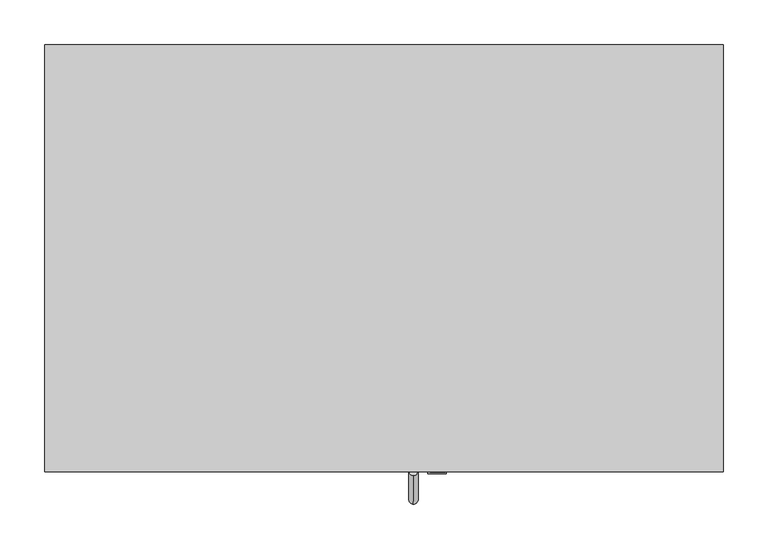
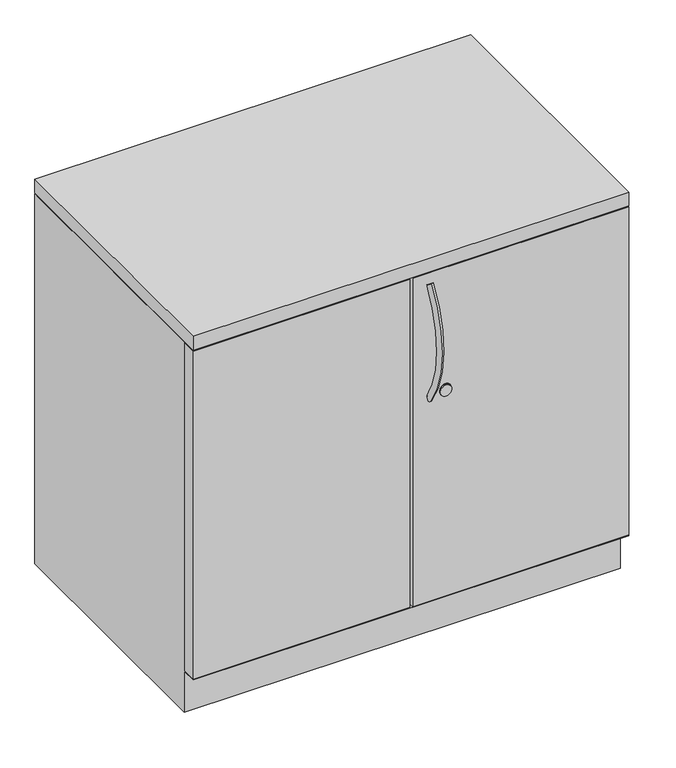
"""IFC4 building model written with IfcOpenShell, lengths in millimetres: furniture geometry, Steelcase - Universal Storage - Cabinet - Storage - 28H - Proud Steel : 18D x 30W."""

from ifc_helpers import new_model, si_unit, point, frame, frame_2d, origin, place, context, project, spatial, polyline, circle_curve, ellipse_curve, trimmed, segment, composite_curve, outline, extrude, faceted_brep, source, transform, mapped, element, save
from ifc_brep_helpers import plane_surface, revolved_surface, advanced_brep


def furniture_28fdecfd(model_context):
    return source(origin(), model_context, "Body", "SolidModel", [
        extrude(outline(polyline([(762.0, 0.0), (762.0, -479.552), (0.0, -479.552), (0.0, 0.0), (762.0, 0.0)])), frame((0.0, 0.0, 685.7999516), z_axis=(0.0, 0.0, 1.0), x_axis=(1.0, 0.0, 0.0)), (0.0, 0.0, 1.0), 25.4),
        extrude(outline(polyline([(0.0, -479.552), (0.0, -454.1528418), (378.46, -454.1528418), (378.46, -479.552), (0.0, -479.552)])), frame((0.0, 0.0, 77.724), z_axis=(0.0, 0.0, 1.0), x_axis=(1.0, 0.0, 0.0)), (0.0, 0.0, 1.0), 606.552),
        extrude(outline(polyline([(762.0, -454.1528418), (762.0, -479.552), (383.54, -479.552), (383.54, -454.1528418), (762.0, -454.1528418)])), frame((0.0, 0.0, 77.724), z_axis=(0.0, 0.0, 1.0), x_axis=(1.0, 0.0, 0.0)), (0.0, 0.0, 1.0), 606.552),
        extrude(outline(composite_curve([segment(trimmed(circle_curve(frame_2d((458.724, 440.5418131)), 10.16), [point((458.724, 450.7018131))], [point((458.724, 430.3818131))], False, "CARTESIAN"), True, "CONTINUOUS"), segment(trimmed(circle_curve(frame_2d((458.724, 440.5418131)), 10.16), [point((458.724, 430.3818131))], [point((458.724, 450.7018131))], False, "CARTESIAN"), True, "CONTINUOUS")], self_intersect=False)), frame((0.0, -481.965031, 0.0), z_axis=(0.0, 1.0, 0.0), x_axis=(0.0, 0.0, 1.0)), (0.0, 0.0, 1.0), 2.413031),
        advanced_brep(
        [(414.0783765, -474.9744318, 660.7416018), (414.0783765, -483.5741633, 666.4120503), (414.0783765, -472.5471581, 453.0151915), (414.0783765, -481.0120418, 447.1453437)],
        [
            (0, 1, circle_curve(frame((414.0783765, -479.2742976, 663.5768261), z_axis=(0.0, 0.5504787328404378, 0.83484918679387), x_axis=(0.0, -0.83484918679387, 0.5504787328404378)), 5.1504701)),
            (1, 0, circle_curve(frame((414.0783765, -479.2742976, 663.5768261), z_axis=(0.0, 0.5504787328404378, 0.83484918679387), x_axis=(0.0, -0.83484918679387, 0.5504787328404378)), 5.1504701)),
            (2, 3, circle_curve(frame((414.0783765, -476.7796, 450.0802676), z_axis=(0.0, 0.5698361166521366, -0.8217583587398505), x_axis=(0.0, -0.8217583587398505, -0.5698361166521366)), 5.1504701)),
            (3, 2, circle_curve(frame((414.0783765, -476.7796, 450.0802676), z_axis=(0.0, 0.5698361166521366, -0.8217583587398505), x_axis=(0.0, -0.8217583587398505, -0.5698361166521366)), 5.1504701)),
            (3, 1, circle_curve(frame((414.0783765, -320.178461, 558.6729992), z_axis=(-1.0, 0.0, 0.0), x_axis=(0.0, -0.83484918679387, 0.5504787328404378)), 195.7188256)),
            (0, 2, circle_curve(frame((414.0783765, -320.178461, 558.6729992), z_axis=(1.0, 0.0, 0.0), x_axis=(0.0, -0.83484918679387, 0.5504787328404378)), 185.4178854)),
        ],
        [
            plane_surface(frame((414.0783765, -479.2742976, 663.5768261), z_axis=(0.0, 0.5504787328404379, 0.83484918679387), x_axis=(-1.0, 0.0, 0.0))),
            plane_surface(frame((414.0783765, -476.7796, 450.0802676), z_axis=(0.0, 0.5698361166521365, -0.8217583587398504), x_axis=(-1.0, 0.0, 0.0))),
            revolved_surface(trimmed(ellipse_curve(frame((414.0783765, -479.2742976, 663.5768261), z_axis=(0.0, 0.5504787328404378, 0.83484918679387), x_axis=(0.0, -0.83484918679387, 0.5504787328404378)), 5.1504701, 5.1504701), [point((414.0783765, -474.9744318, 660.7416018))], [point((414.0783765, -483.5741633, 666.4120503))], True, "CARTESIAN"), (414.0783765, -320.178461, 558.6729992), (1.0, 0.0, 0.0)),
            revolved_surface(trimmed(ellipse_curve(frame((414.0783765, -479.2742976, 663.5768261), z_axis=(0.0, 0.5504787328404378, 0.83484918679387), x_axis=(0.0, -0.83484918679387, 0.5504787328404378)), 5.1504701, 5.1504701), [point((414.0783765, -483.5741633, 666.4120503))], [point((414.0783765, -474.9744318, 660.7416018))], True, "CARTESIAN"), (414.0783765, -320.178461, 558.6729992), (1.0, 0.0, 0.0)),
        ],
        [
            (0, [[1, 2]]),
            (1, [[3, 4]]),
            (2, [[5, -1, 6, -4]]),
            (3, [[-6, -2, -5, -3]]),
        ],
    ),
        extrude(outline(composite_curve([segment(trimmed(circle_curve(frame_2d((460.3889832, 440.8109835)), 9.7167829), [point((460.3889832, 450.5277664))], [point((460.3889832, 431.0942006))], False, "CARTESIAN"), True, "CONTINUOUS"), segment(trimmed(circle_curve(frame_2d((460.3889832, 440.8109835)), 9.7167829), [point((460.3889832, 431.0942006))], [point((460.3889832, 450.5277664))], False, "CARTESIAN"), True, "CONTINUOUS")], self_intersect=False)), frame((0.0, -480.2215275, 0.0), z_axis=(0.0, 1.0, 0.0), x_axis=(0.0, 0.0, 1.0)), (0.0, 0.0, 1.0), 0.6695275),
        faceted_brep([(762.0, 0.0, 0.0), (762.0, -452.6288432, 0.0), (0.0, -452.6288432, 0.0), (0.0, 0.0, 0.0), (0.0, 0.0, 684.276), (762.0, 0.0, 684.276), (0.0, -452.6288432, 76.2), (0.0, -479.552, 76.2), (0.0, -479.552, 77.724), (0.0, -452.6288432, 77.724), (0.0, -452.6288432, 684.276), (762.0, -452.6288432, 76.2), (762.0, -452.6288432, 684.276), (762.0, -452.6288432, 77.724), (762.0, -479.4258418, 77.724), (762.0, -479.552, 76.2), (736.6000242, -25.4000008, 684.276), (736.6000242, -452.6288432, 684.276), (25.3999758, -452.6288432, 684.276), (25.3999758, -25.4000008, 684.276), (736.6000242, -25.4000008, 77.724), (736.6000242, -452.6288432, 77.724), (25.3999758, -452.6288432, 77.724), (25.3999758, -25.4000008, 77.724), (4.6981334, -454.1528418, 77.724), (736.6000242, -454.1528418, 77.724)], [[[0, 1, 2, 3]], [[0, 3, 4, 5]], [[4, 3, 2, 6, 7, 8, 9, 10]], [[2, 1, 11, 6]], [[1, 0, 5, 12, 13, 14, 15, 11]], [[16, 17, 12, 5, 4, 10, 18, 19]], [[17, 16, 20, 21]], [[12, 17, 21, 13]], [[18, 10, 9, 22]], [[19, 18, 22, 23]], [[16, 19, 23, 20]], [[8, 24, 25, 14, 13, 21, 20, 23, 22, 9]], [[24, 8, 7]], [[25, 24, 7, 15]], [[14, 25, 15]], [[15, 7, 6, 11]]]),
    ])


if __name__ == "__main__":
    model = new_model("IFC4")
    model_context = context("Model", 3, world=origin())
    ifc_project = project(units=[si_unit("LENGTHUNIT", "METRE", prefix="MILLI")], contexts=[model_context])
    site = spatial("IfcSite", under=ifc_project)
    building = spatial("IfcBuilding", under=site)
    placement = place(None, origin())
    furniture_shape = furniture_28fdecfd(model_context)
    element("IfcFurniture", 1, ObjectType="Steelcase - Universal Storage - Cabinet - Storage - 28H - Proud Steel : 18D x 30W", at=placement, inside=building, context=model_context, shape_type="MappedRepresentation", body=[
        mapped(furniture_shape, transform((0.0, 0.0, 0.0), x_axis=(1.0, 0.0, 0.0), y_axis=(0.0, 1.0, 0.0), z_axis=(0.0, 0.0, 1.0))),
    ])
    save(model, "model.ifc")
